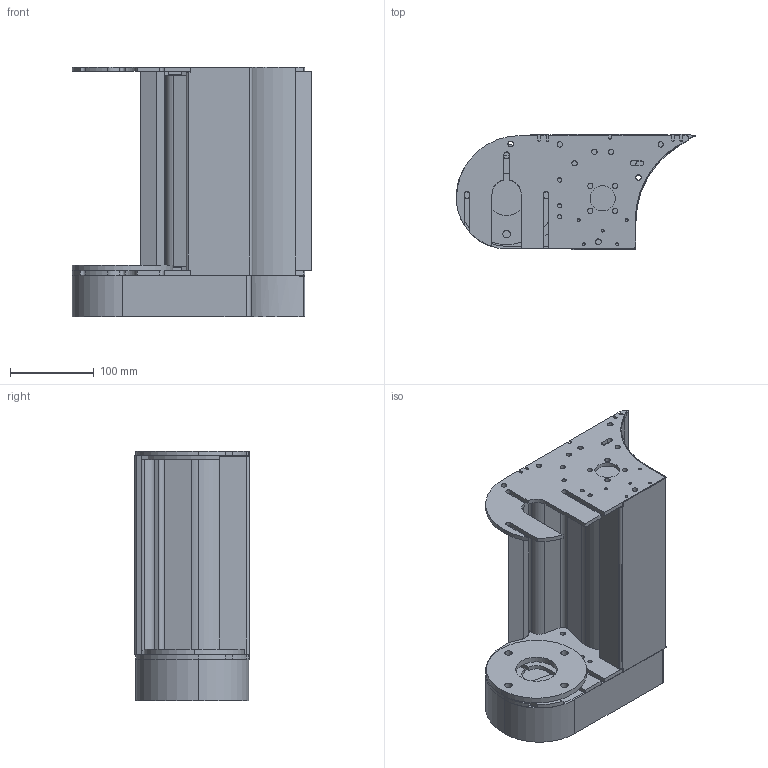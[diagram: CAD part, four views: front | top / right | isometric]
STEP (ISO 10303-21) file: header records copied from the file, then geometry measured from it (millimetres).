
FILE_DESCRIPTION (( 'STEP AP214' ), '1' );
FILE_NAME ('F2 750 TMGM NTB.step', '2017-04-05T07:35:35', ( '' ), ( '' ), 'SwSTEP 2.0', 'SolidWorks 2015', '' );
FILE_SCHEMA (( 'AUTOMOTIVE_DESIGN' ));
Length unit declared in the file: millimetre
Products named in the file (1): F2 750 TMGM NTB
Bounding box: 286.35 x 137.58 x 299 mm (x, y, z)
Volume: 2844562.1 mm3; surface area: 565077.9 mm2
Topology: 9 solids, 9 shells, 375 faces, 1062 edges, 707 vertices
Faces by surface type: cylinder 202, plane 173
Entity records: 12758 total; most frequent: DIRECTION 2221, CARTESIAN_POINT 2145, ORIENTED_EDGE 2124, EDGE_CURVE 1062, AXIS2_PLACEMENT_3D 783, VERTEX_POINT 707, VECTOR 655, LINE 655
